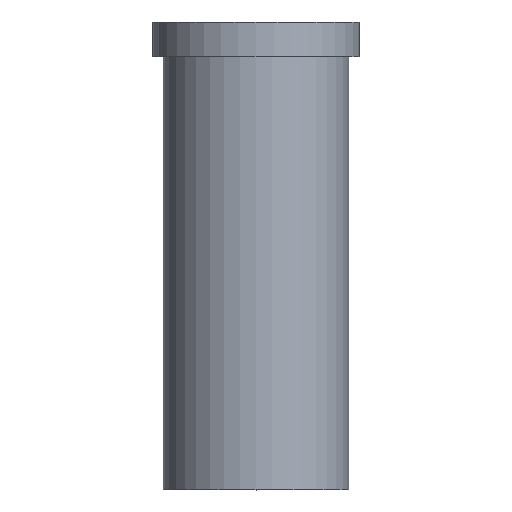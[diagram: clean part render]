
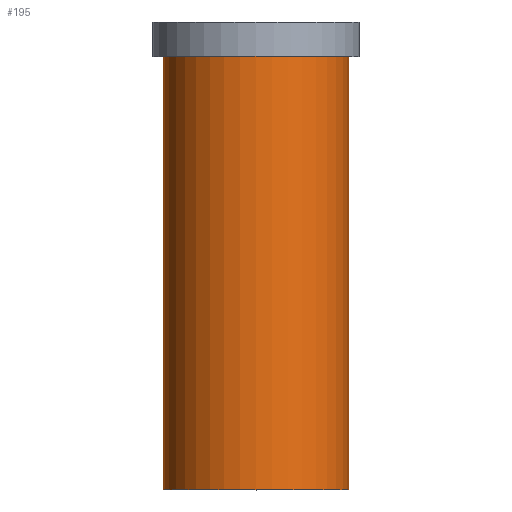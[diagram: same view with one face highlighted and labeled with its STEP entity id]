
A CAD part, top view. The second image highlights one B-rep face of the part: STEP entity #195.
In plain terms, the highlighted cylindrical face has radius 27 mm (diameter 54 mm), a full revolution.
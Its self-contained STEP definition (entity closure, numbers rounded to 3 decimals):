
#32=ORIENTED_EDGE('',*,*,#50,.T.);
#33=ORIENTED_EDGE('',*,*,#49,.F.);
#49=EDGE_CURVE('',#59,#59,#69,.T.);
#50=EDGE_CURVE('',#60,#60,#70,.T.);
#59=VERTEX_POINT('',#280);
#60=VERTEX_POINT('',#283);
#69=CIRCLE('',#213,27.);
#70=CIRCLE('',#215,27.);
#82=EDGE_LOOP('',(#32));
#83=EDGE_LOOP('',(#33));
#102=FACE_BOUND('',#82,.T.);
#103=FACE_BOUND('',#83,.T.);
#117=CYLINDRICAL_SURFACE('',#214,27.);
#195=ADVANCED_FACE('',(#102,#103),#117,.T.);
#213=AXIS2_PLACEMENT_3D('',#279,#241,#242);
#214=AXIS2_PLACEMENT_3D('',#281,#243,#244);
#215=AXIS2_PLACEMENT_3D('',#282,#245,#246);
#241=DIRECTION('',(0.,-1.,0.));
#242=DIRECTION('',(0.,0.,-1.));
#243=DIRECTION('',(0.,-1.,0.));
#244=DIRECTION('',(0.,0.,-1.));
#245=DIRECTION('',(0.,-1.,0.));
#246=DIRECTION('',(0.,0.,-1.));
#279=CARTESIAN_POINT('',(0.,0.,0.));
#280=CARTESIAN_POINT('',(0.,0.,-27.));
#281=CARTESIAN_POINT('',(0.,0.,0.));
#282=CARTESIAN_POINT('',(0.,126.,0.));
#283=CARTESIAN_POINT('',(0.,126.,-27.));
